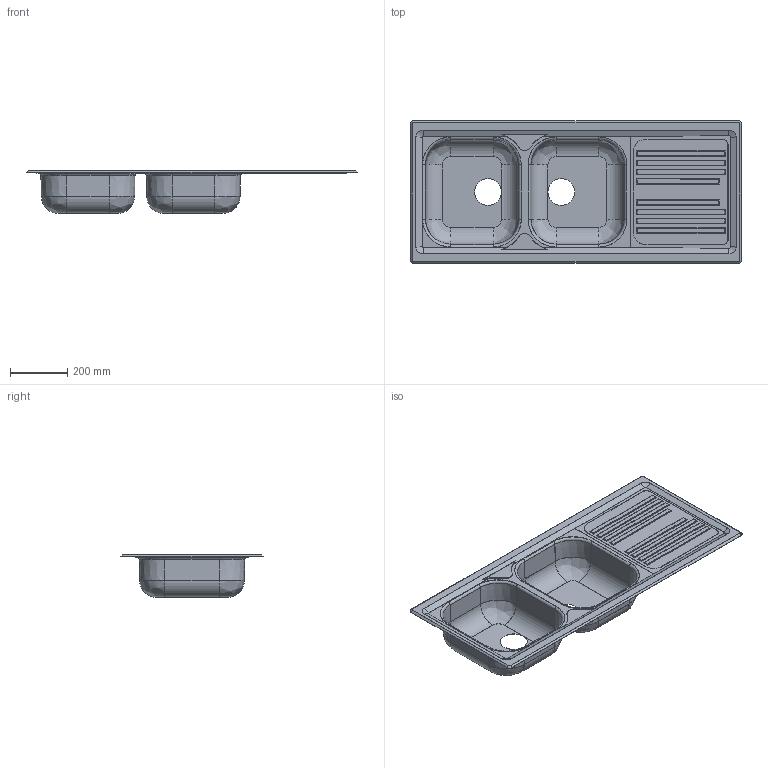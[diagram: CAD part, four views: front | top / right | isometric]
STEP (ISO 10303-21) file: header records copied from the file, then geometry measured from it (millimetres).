
FILE_DESCRIPTION((''),'1');
FILE_NAME('C:/Users/linop/Desktop/LYP116R.stp','2018-02-26T07:45:48',(''),(''),'Spatial Interop R20 SP1','Kubotek KeyCreator V9.0.3 (16864)',' ');
FILE_SCHEMA(('CONFIG_CONTROL_DESIGN'));
Length unit declared in the file: millimetre
Products named in the file (3): 1; 2; 3
Bounding box: 1160 x 500 x 150 mm (x, y, z)
Volume: 512266.8 mm3; surface area: 1713945.1 mm2
Topology: 3 solids, 3 shells, 311 faces, 747 edges, 458 vertices
Faces by surface type: plane 164, cylinder 83, cone 32, torus 16, revolution 16
Full cylindrical faces by diameter (mm): 6.5 x1, 94 x2
Entity records: 9259 total; most frequent: CARTESIAN_POINT 1951, ORIENTED_EDGE 1488, DIRECTION 1454, EDGE_CURVE 744, AXIS2_PLACEMENT_3D 504, VERTEX_POINT 458, LINE 430, VECTOR 430
